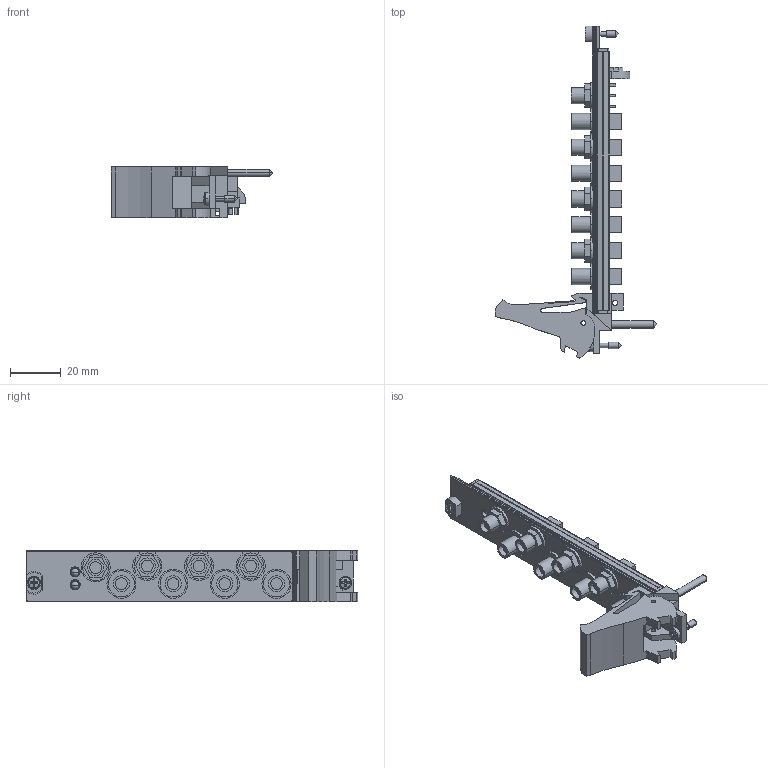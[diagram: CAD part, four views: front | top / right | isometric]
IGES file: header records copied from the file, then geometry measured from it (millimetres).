
Start section:  PTC IGES file: cu_pxie-6674t.igs
Global section: file name: cu_pxie-6674t.igs; native system: Pro/ENGINEER by Parametric Technology Corporation; preprocessor: 2010230; author: jjorden; organization: Unknown; date: 20110512.100947; units: inch
Bounding box: 63.53 x 130.5 x 20.31 mm (x, y, z)
Surface area: 20945 mm2 (no closed solid volume)
Topology: 0 solids, 0 shells, 860 faces, 4520 edges, 4512 vertices
Faces by surface type: bspline 630, revolution 230
